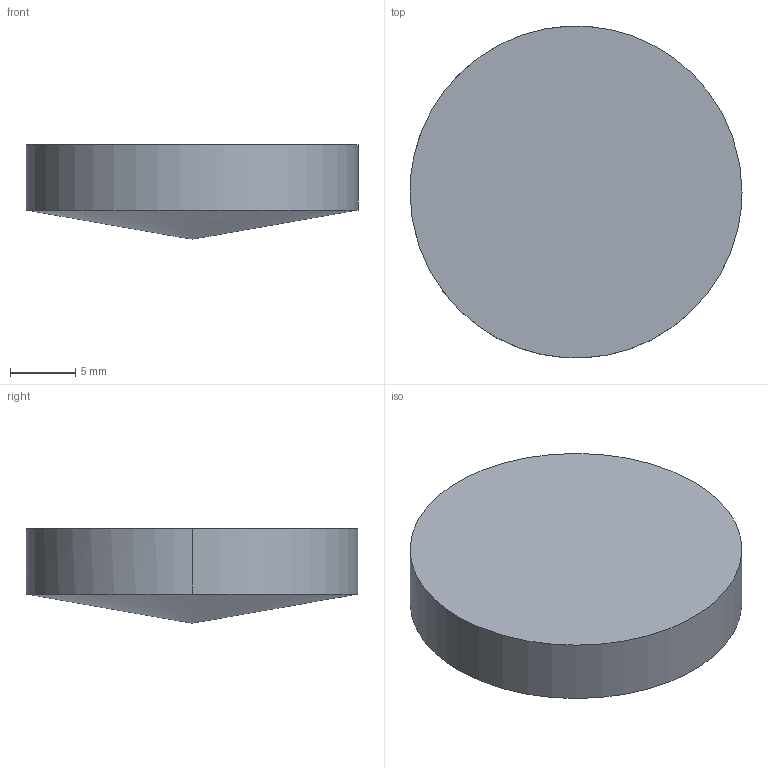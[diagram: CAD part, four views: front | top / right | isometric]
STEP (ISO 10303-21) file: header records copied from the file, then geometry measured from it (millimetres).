
FILE_DESCRIPTION ((), '1');
FILE_NAME ('\\fileserver\Daten\Applikationen\Optikdesign\SPA-Design\aktuelle SPA-Designs\Linsenkataloge - 2016-Juni\Zemax\XFL\XFL25-100.STP', '2016-05-24T14:29:08', ('Unknown'), ('Unknown'), 'HarmonyWare STEP v2.0.1', 'HarmonyWare Translators', '');
FILE_SCHEMA (('CONFIG_CONTROL_DESIGN'));
Length unit declared in the file: millimetre
Products named in the file (1): NONE
Bounding box: 25.4 x 25.38 x 7.24 mm (x, y, z)
Volume: 2914.1 mm3; surface area: 1420.9 mm2
Topology: 1 solids, 1 shells, 4 faces, 9 edges, 6 vertices
Faces by surface type: cylinder 2, bspline 1, plane 1
Entity records: 285 total; most frequent: CARTESIAN_POINT 134, ORIENTED_EDGE 16, EDGE_CURVE 8, PERSON 8, ORGANIZATION 8, PERSON_AND_ORGANIZATION 8, VERTEX_POINT 6, DIRECTION 6
